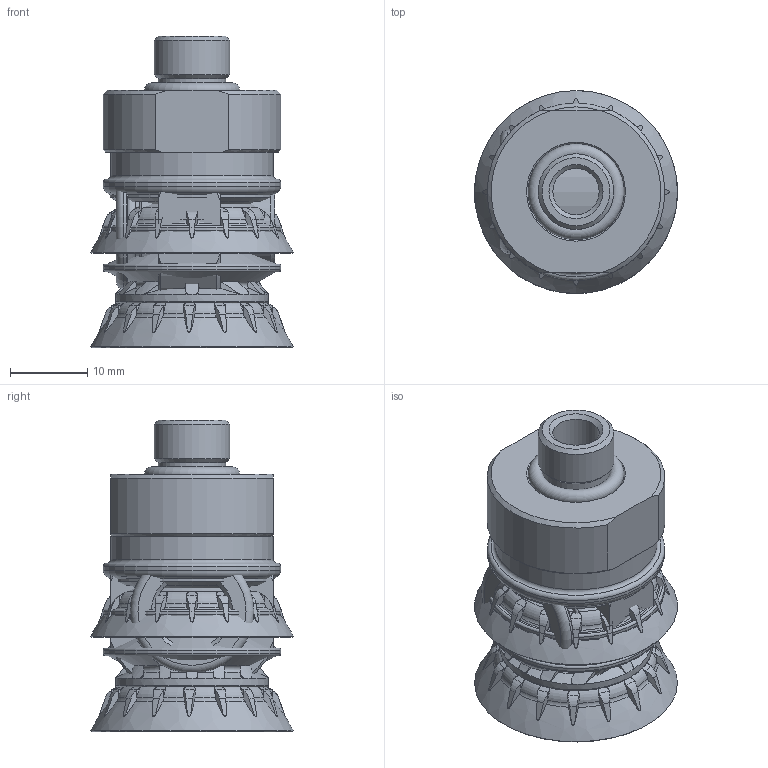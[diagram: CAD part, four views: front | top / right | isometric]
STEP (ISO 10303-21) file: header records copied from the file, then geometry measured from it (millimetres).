
FILE_DESCRIPTION( ( 'Unknown' ), '1' );
FILE_NAME( 'C:/Documents and Settings/owner/官帕 拳搁/叼膏怜/3D/2013.12.19 概流 Cup/荤夯 - B1.5/B2.5-20-X25-S-D-18M.stp', 'Unknown', ( 'Unknown' ), ( 'Unknown' ), 'XStep 1.0', 'Unknown', ' ' );
FILE_SCHEMA( ( 'automotive_design' ) );
Length unit declared in the file: millimetre
Products named in the file (6): Assem1; B2.5-20; B2.5-20-X25; 18M-Oring; B1.5-20-18M; B2.5-20-stopperD
Bounding box: 26.28 x 26.28 x 40.35 mm (x, y, z)
Volume: 13363.5 mm3; surface area: 17640.8 mm2
Topology: 10 solids, 10 shells, 1208 faces, 3102 edges, 1962 vertices
Faces by surface type: plane 378, cylinder 334, torus 290, cone 202, bspline 4
Full cylindrical faces by diameter (mm): 6 x2, 8.8 x2, 9.5 x2, 9.8 x4, 11.9 x4, 12.4 x2, 13 x4, 13.4 x2, 14.475 x2, 15 x4, 15.673 x2, 16 x2, 17 x2, 17.5 x2, 19 x2, 19.8 x2, 21 x2, 21.18 x2, 23 x6
Entity records: 20293 total; most frequent: CARTESIAN_POINT 6803, ORIENTED_EDGE 2910, DIRECTION 2360, EDGE_CURVE 1455, AXIS2_PLACEMENT_3D 1050, VERTEX_POINT 975, B_SPLINE_CURVE_WITH_KNOTS 753, EDGE_LOOP 726
